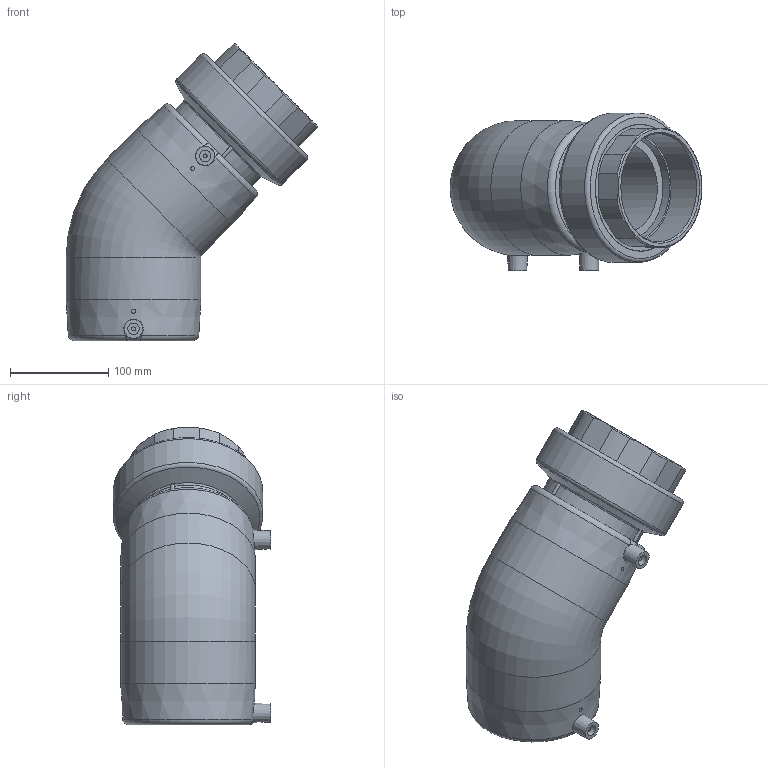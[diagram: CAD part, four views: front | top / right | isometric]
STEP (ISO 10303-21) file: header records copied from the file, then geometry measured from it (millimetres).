
FILE_DESCRIPTION(/* description */ ('Unknown'),/* implementation_level */ '2;1');
FILE_NAME(/* name */ 'GE4TFP110C',/* time_stamp */ '2021-03-02T15:53:55+01:00',/* author */ ('Unknown'),/* organization */ ('Unknown'),/* preprocessor_version */ 'ST-DEVELOPER v16.7',/* originating_system */ 'Solid Edge',/* authorisation */ 'Unknown');
FILE_SCHEMA (('AUTOMOTIVE_DESIGN {1 0 10303 214 3 1 1}'));
Length unit declared in the file: millimetre
Products named in the file (5): GE4TFP110C; GE4P110C; RTOFP110C; Parte PE 110; IOF110C
Assembly tree (4 placements, depth 3):
  GE4TFP110C
    GE4P110C
    RTOFP110C
      Parte PE 110
      IOF110C
Bounding box: 255.87 x 159.84 x 302.37 mm (x, y, z)
Volume: 2079209 mm3; surface area: 389002.1 mm2
Topology: 3 solids, 3 shells, 205 faces, 497 edges, 316 vertices
Faces by surface type: plane 101, cylinder 49, cone 23, bspline 17, torus 15
Full cylindrical faces by diameter (mm): 4 x4, 11.6 x2, 90 x1, 100 x4, 106 x2, 110 x3, 110.072 x1, 119 x2, 123.4 x2, 129 x8, 137 x2, 152 x1
Entity records: 6574 total; most frequent: CARTESIAN_POINT 1439, DIRECTION 962, ORIENTED_EDGE 856, EDGE_CURVE 428, AXIS2_PLACEMENT_3D 399, VERTEX_POINT 297, EDGE_LOOP 279, FACE_BOUND 279
